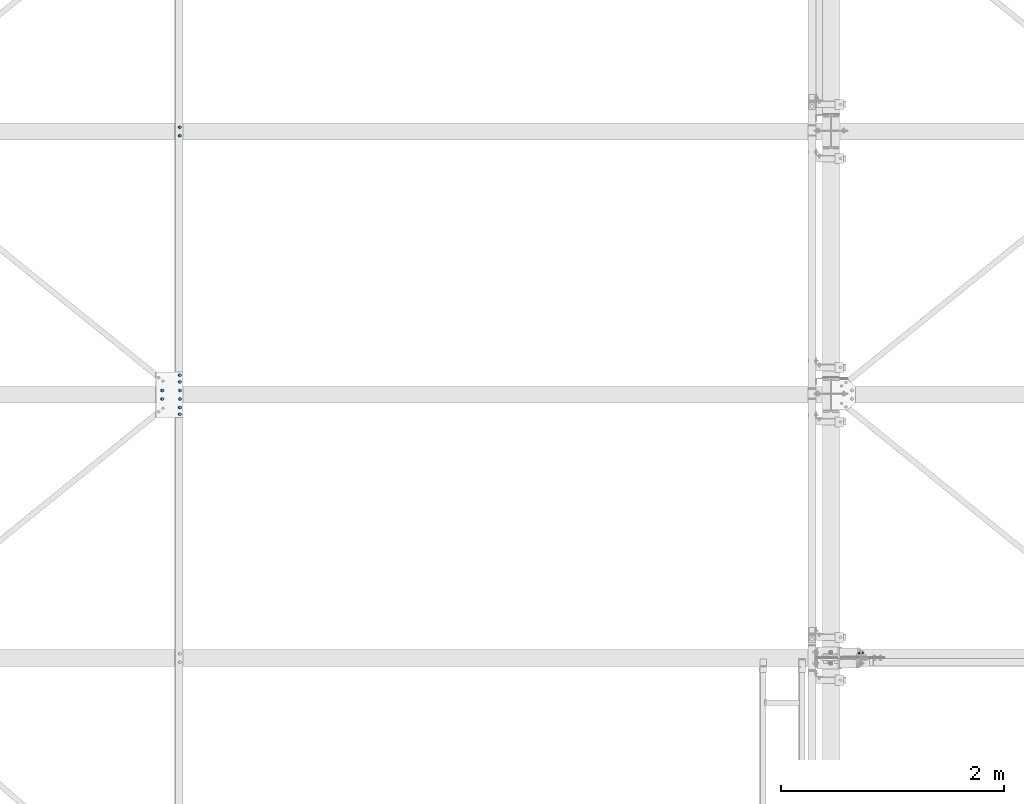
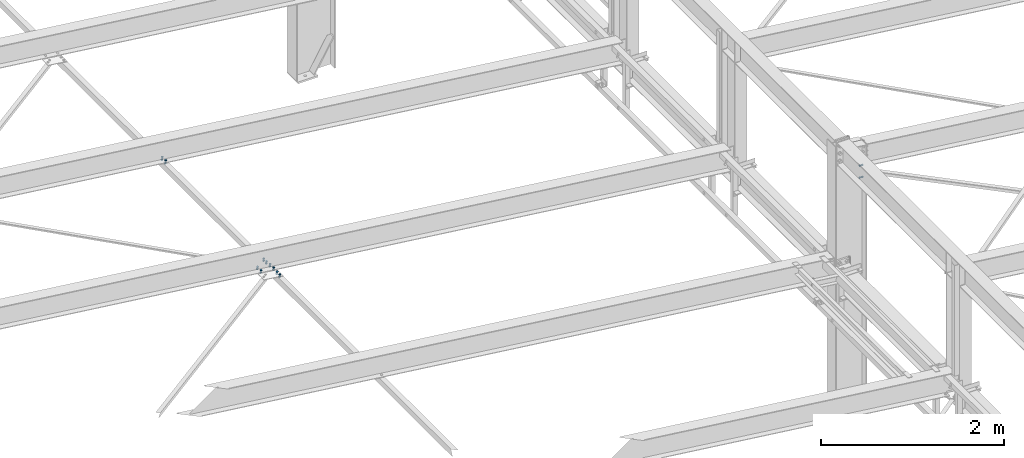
# One storey, part 118 of 3134: 5 mechanical fasteners, 4 elements without a shape of their own.
"""IFC2X3 building model written with IfcOpenShell, lengths in millimetres."""

from ifc_helpers import new_model, si_unit, frame, origin_with_axes, place, context, subcontext, project, spatial, faceted_brep, source, transform, mapped, material, type_object, element, aggregate, save


model = new_model("IFC2X3")

# Units and contexts
model_context = context("Model", 3, precision=1e-05, world=origin_with_axes())
body_context = subcontext(model_context, "Body", "Model", "MODEL_VIEW")
ifc_project = project(units=[si_unit("LENGTHUNIT", "METRE", prefix="MILLI"), si_unit("AREAUNIT", "SQUARE_METRE"), si_unit("VOLUMEUNIT", "CUBIC_METRE"), si_unit("MASSUNIT", "GRAM", prefix="KILO"), si_unit("TIMEUNIT", "SECOND"), si_unit("PLANEANGLEUNIT", "RADIAN"), si_unit("SOLIDANGLEUNIT", "STERADIAN"), si_unit("THERMODYNAMICTEMPERATUREUNIT", "DEGREE_CELSIUS"), si_unit("LUMINOUSINTENSITYUNIT", "LUMEN")], contexts=[model_context])

# Site, building, storey
site_placement = place(None, origin_with_axes())
site = spatial("IfcSite", under=ifc_project, at=site_placement, CompositionType="ELEMENT")
building_placement = place(site_placement, origin_with_axes())
building = spatial("IfcBuilding", under=site, at=building_placement, Name="Undefined", CompositionType="ELEMENT")
storey_placement = place(building_placement, origin_with_axes())
storey = spatial("IfcBuildingStorey", under=building, at=storey_placement, Name="Undefined", CompositionType="ELEMENT", Elevation=0.0)

# Assembly, mechanical fastener
assembly_1_placement = place(storey_placement, origin_with_axes())
assembly_1 = element("IfcElementAssembly", 1, at=assembly_1_placement, inside=storey, Name="300", AssemblyPlace="NOTDEFINED", PredefinedType="RIGID_FRAME")
ifc_material = material(Name="8.8")
mechanical_fastener_type = type_object("IfcMechanicalFastenerType", Name="Bolt assembly")
shared_shape_1 = source(origin_with_axes(), body_context, "Body", "Brep", [
    faceted_brep([(13.856406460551, -19.199990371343, 0.0), (6.92820323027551, -19.199990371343, 12.0), (-6.92820323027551, -19.199990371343, 12.0), (-13.856406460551, -19.199990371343, 1.69692038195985e-15), (-6.92820323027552, -19.199990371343, -12.0), (6.9282032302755, -19.199990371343, -12.0), (6.9282032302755, -9.19999037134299, -12.0), (-6.92820323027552, -9.19999037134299, -12.0), (-13.856406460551, -9.19999037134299, 1.69692038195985e-15), (-6.92820323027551, -9.19999037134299, 12.0), (6.92820323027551, -9.19999037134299, 12.0), (13.856406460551, -9.19999037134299, 0.0), (8.0, -9.19999037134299, 0.0), (6.92820323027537, -9.19999037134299, 4.00000000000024), (3.99999999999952, -9.19999037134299, 6.92820323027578), (-8.29068785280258e-13, -9.19999037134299, 8.0), (-4.00000000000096, -9.19999037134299, 6.92820323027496), (-6.9282032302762, -9.19999037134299, 3.99999999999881), (-8.0, -9.19999037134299, -1.65813757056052e-12), (-6.92820323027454, -9.19999037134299, -4.00000000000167), (-3.99999999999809, -9.19999037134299, -6.92820323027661), (2.47832457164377e-12, -9.19999037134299, -8.0), (4.00000000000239, -9.19999037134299, -6.92820323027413), (6.92820323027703, -9.19999037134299, -3.99999999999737), (6.92820323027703, 25.800009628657, -3.99999999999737), (4.00000000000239, 25.800009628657, -6.92820323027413), (2.47832457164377e-12, 25.800009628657, -8.0), (-3.99999999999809, 25.800009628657, -6.92820323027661), (-6.92820323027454, 25.800009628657, -4.00000000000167), (-8.0, 25.800009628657, -1.65813757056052e-12), (-6.9282032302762, 25.800009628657, 3.99999999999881), (-4.00000000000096, 25.800009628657, 6.92820323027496), (-8.29068785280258e-13, 25.800009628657, 8.0), (3.99999999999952, 25.800009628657, 6.92820323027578), (6.92820323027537, 25.800009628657, 4.00000000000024), (8.0, 25.800009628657, 0.0), (13.856406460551, 8.00000637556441, 0.0), (6.92820323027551, 8.00000637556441, 12.0), (-6.92820323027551, 8.00000637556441, 12.0), (-13.856406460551, 8.00000637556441, 1.69692038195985e-15), (-6.92820323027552, 8.00000637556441, -12.0), (6.9282032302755, 8.00000637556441, -12.0), (6.9282032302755, 21.0000063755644, -12.0), (-6.92820323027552, 21.0000063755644, -12.0), (-13.856406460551, 21.0000063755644, 1.69692038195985e-15), (-6.92820323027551, 21.0000063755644, 12.0), (6.92820323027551, 21.0000063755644, 12.0), (13.856406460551, 21.0000063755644, 0.0)], [[[0, 1, 2, 3, 4, 5]], [[6, 7, 8, 9, 10, 11]], [[0, 11, 10, 1]], [[1, 10, 9, 2]], [[2, 9, 8, 3]], [[3, 8, 7, 4]], [[4, 7, 6, 5]], [[5, 6, 11, 0]], [[12, 13, 14, 15, 16, 17, 18, 19, 20, 21, 22, 23]], [[24, 25, 26, 27, 28, 29, 30, 31, 32, 33, 34, 35]], [[12, 35, 34, 13]], [[13, 34, 33, 14]], [[14, 33, 32, 15]], [[15, 32, 31, 16]], [[16, 31, 30, 17]], [[17, 30, 29, 18]], [[18, 29, 28, 19]], [[19, 28, 27, 20]], [[20, 27, 26, 21]], [[21, 26, 25, 22]], [[22, 25, 24, 23]], [[23, 24, 35, 12]], [[36, 37, 38, 39, 40, 41]], [[42, 43, 44, 45, 46, 47]], [[36, 47, 46, 37]], [[37, 46, 45, 38]], [[38, 45, 44, 39]], [[39, 44, 43, 40]], [[40, 43, 42, 41]], [[41, 42, 47, 36]]]),
    faceted_brep([(9.0, -0.1, 0.0), (7.79422863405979, -0.1, 4.50000000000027), (4.49999999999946, -0.1, 7.79422863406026), (-9.3270238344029e-13, -0.1, 9.0), (-4.50000000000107, -0.1, 7.79422863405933), (-7.79422863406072, -0.1, 4.49999999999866), (-9.0, -0.1, -1.86540476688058e-12), (-7.79422863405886, -0.1, -4.50000000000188), (-4.49999999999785, -0.1, -7.79422863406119), (2.78811514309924e-12, -0.1, -9.0), (4.50000000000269, -0.1, -7.7942286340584), (7.79422863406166, -0.1, -4.49999999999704), (7.79422863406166, 8.00000000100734, -4.49999999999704), (4.50000000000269, 8.00000000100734, -7.7942286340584), (2.78811514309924e-12, 8.00000000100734, -9.0), (-4.49999999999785, 8.00000000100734, -7.79422863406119), (-7.79422863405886, 8.00000000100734, -4.50000000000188), (-9.0, 8.00000000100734, -1.86540476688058e-12), (-7.79422863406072, 8.00000000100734, 4.49999999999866), (-4.50000000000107, 8.00000000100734, 7.79422863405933), (-9.3270238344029e-13, 8.00000000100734, 9.0), (4.49999999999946, 8.00000000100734, 7.79422863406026), (7.79422863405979, 8.00000000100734, 4.50000000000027), (9.0, 8.00000000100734, 0.0), (9.0, -9.09999037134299, 0.0), (7.79422863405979, -9.09999037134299, 4.50000000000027), (4.49999999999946, -9.09999037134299, 7.79422863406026), (-9.3270238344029e-13, -9.09999037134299, 9.0), (-4.50000000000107, -9.09999037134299, 7.79422863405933), (-7.79422863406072, -9.09999037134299, 4.49999999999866), (-9.0, -9.09999037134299, -1.86540476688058e-12), (-7.79422863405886, -9.09999037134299, -4.50000000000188), (-4.49999999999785, -9.09999037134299, -7.79422863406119), (2.78811514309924e-12, -9.09999037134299, -9.0), (4.50000000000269, -9.09999037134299, -7.7942286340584), (7.79422863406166, -9.09999037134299, -4.49999999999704), (7.79422863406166, 0.100000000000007, -4.49999999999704), (4.50000000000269, 0.100000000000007, -7.7942286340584), (2.78811514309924e-12, 0.100000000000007, -9.0), (-4.49999999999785, 0.100000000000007, -7.79422863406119), (-7.79422863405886, 0.100000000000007, -4.50000000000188), (-9.0, 0.100000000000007, -1.86540476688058e-12), (-7.79422863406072, 0.100000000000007, 4.49999999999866), (-4.50000000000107, 0.100000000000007, 7.79422863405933), (-9.3270238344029e-13, 0.100000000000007, 9.0), (4.49999999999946, 0.100000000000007, 7.79422863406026), (7.79422863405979, 0.100000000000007, 4.50000000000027), (9.0, 0.100000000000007, 0.0)], [[[0, 1, 2, 3, 4, 5, 6, 7, 8, 9, 10, 11]], [[12, 13, 14, 15, 16, 17, 18, 19, 20, 21, 22, 23]], [[0, 23, 22, 1]], [[1, 22, 21, 2]], [[2, 21, 20, 3]], [[3, 20, 19, 4]], [[4, 19, 18, 5]], [[5, 18, 17, 6]], [[6, 17, 16, 7]], [[7, 16, 15, 8]], [[8, 15, 14, 9]], [[9, 14, 13, 10]], [[10, 13, 12, 11]], [[11, 12, 23, 0]], [[24, 25, 26, 27, 28, 29, 30, 31, 32, 33, 34, 35]], [[36, 37, 38, 39, 40, 41, 42, 43, 44, 45, 46, 47]], [[24, 47, 46, 25]], [[25, 46, 45, 26]], [[26, 45, 44, 27]], [[27, 44, 43, 28]], [[28, 43, 42, 29]], [[29, 42, 41, 30]], [[30, 41, 40, 31]], [[31, 40, 39, 32]], [[32, 39, 38, 33]], [[33, 38, 37, 34]], [[34, 37, 36, 35]], [[35, 36, 47, 24]]]),
])
mechanical_fastener_1_placement = place(assembly_1_placement, frame((38283.5751064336, 9972.0, 4816.43281405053), z_axis=(-0.992623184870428, 0.0, 0.121240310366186), x_axis=(0.0, 1.0, 0.0)))
mechanical_fastener_1 = element("IfcMechanicalFastener", 2, at=mechanical_fastener_1_placement, type_object=mechanical_fastener_type, material=ifc_material, Name="Bolt assembly", NominalDiameter=16.0, NominalLength=35.0, context=body_context, shape_type="MappedRepresentation", body=[
    mapped(shared_shape_1, transform((0.0, -5.32963895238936e-10, -79.9999999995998))),
    mapped(shared_shape_1, transform((76.0, -5.32963895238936e-10, -79.9999999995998))),
    mapped(shared_shape_1, transform((0.0, 5.3114490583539e-10, 79.9999999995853))),
    mapped(shared_shape_1, transform((76.0, 5.3114490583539e-10, 79.9999999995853))),
])
aggregate(assembly_1, [mechanical_fastener_1])

assembly_2_placement = place(storey_placement, origin_with_axes())
assembly_2 = element("IfcElementAssembly", 3, at=assembly_2_placement, inside=storey, AssemblyPlace="NOTDEFINED", PredefinedType="RIGID_FRAME")
shared_shape_2 = source(origin_with_axes(), body_context, "Body", "Brep", [
    faceted_brep([(13.856406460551, -19.199990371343, 0.0), (6.92820323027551, -19.199990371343, 12.0), (-6.92820323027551, -19.199990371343, 12.0), (-13.856406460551, -19.199990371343, 1.69692038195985e-15), (-6.92820323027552, -19.199990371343, -12.0), (6.9282032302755, -19.199990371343, -12.0), (6.9282032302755, -9.19999037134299, -12.0), (-6.92820323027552, -9.19999037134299, -12.0), (-13.856406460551, -9.19999037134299, 1.69692038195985e-15), (-6.92820323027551, -9.19999037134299, 12.0), (6.92820323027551, -9.19999037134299, 12.0), (13.856406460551, -9.19999037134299, 0.0), (8.0, -9.19999037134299, 0.0), (6.92820323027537, -9.19999037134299, 4.00000000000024), (3.99999999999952, -9.19999037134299, 6.92820323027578), (-8.29068785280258e-13, -9.19999037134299, 8.0), (-4.00000000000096, -9.19999037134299, 6.92820323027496), (-6.9282032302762, -9.19999037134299, 3.99999999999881), (-8.0, -9.19999037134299, -1.65813757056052e-12), (-6.92820323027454, -9.19999037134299, -4.00000000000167), (-3.99999999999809, -9.19999037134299, -6.92820323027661), (2.47832457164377e-12, -9.19999037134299, -8.0), (4.00000000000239, -9.19999037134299, -6.92820323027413), (6.92820323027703, -9.19999037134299, -3.99999999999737), (6.92820323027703, 35.8000002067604, -3.99999999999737), (4.00000000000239, 35.8000002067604, -6.92820323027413), (2.47832457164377e-12, 35.8000002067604, -8.0), (-3.99999999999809, 35.8000002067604, -6.92820323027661), (-6.92820323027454, 35.8000002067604, -4.00000000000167), (-8.0, 35.8000002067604, -1.65813757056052e-12), (-6.9282032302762, 35.8000002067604, 3.99999999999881), (-4.00000000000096, 35.8000002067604, 6.92820323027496), (-8.29068785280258e-13, 35.8000002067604, 8.0), (3.99999999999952, 35.8000002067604, 6.92820323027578), (6.92820323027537, 35.8000002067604, 4.00000000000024), (8.0, 35.8000002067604, 0.0), (13.856406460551, 14.9999995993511, 0.0), (6.92820323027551, 14.9999995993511, 12.0), (-6.92820323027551, 14.9999995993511, 12.0), (-13.856406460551, 14.9999995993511, 1.69692038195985e-15), (-6.92820323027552, 14.9999995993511, -12.0), (6.9282032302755, 14.9999995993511, -12.0), (6.9282032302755, 27.9999995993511, -12.0), (-6.92820323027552, 27.9999995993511, -12.0), (-13.856406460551, 27.9999995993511, 1.69692038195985e-15), (-6.92820323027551, 27.9999995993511, 12.0), (6.92820323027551, 27.9999995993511, 12.0), (13.856406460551, 27.9999995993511, 0.0)], [[[0, 1, 2, 3, 4, 5]], [[6, 7, 8, 9, 10, 11]], [[0, 11, 10, 1]], [[1, 10, 9, 2]], [[2, 9, 8, 3]], [[3, 8, 7, 4]], [[4, 7, 6, 5]], [[5, 6, 11, 0]], [[12, 13, 14, 15, 16, 17, 18, 19, 20, 21, 22, 23]], [[24, 25, 26, 27, 28, 29, 30, 31, 32, 33, 34, 35]], [[12, 35, 34, 13]], [[13, 34, 33, 14]], [[14, 33, 32, 15]], [[15, 32, 31, 16]], [[16, 31, 30, 17]], [[17, 30, 29, 18]], [[18, 29, 28, 19]], [[19, 28, 27, 20]], [[20, 27, 26, 21]], [[21, 26, 25, 22]], [[22, 25, 24, 23]], [[23, 24, 35, 12]], [[36, 37, 38, 39, 40, 41]], [[42, 43, 44, 45, 46, 47]], [[36, 47, 46, 37]], [[37, 46, 45, 38]], [[38, 45, 44, 39]], [[39, 44, 43, 40]], [[40, 43, 42, 41]], [[41, 42, 47, 36]]]),
    faceted_brep([(9.0, -9.09999037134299, 0.0), (7.79422863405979, -9.09999037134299, 4.50000000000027), (4.49999999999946, -9.09999037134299, 7.79422863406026), (-9.3270238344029e-13, -9.09999037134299, 9.0), (-4.50000000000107, -9.09999037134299, 7.79422863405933), (-7.79422863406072, -9.09999037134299, 4.49999999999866), (-9.0, -9.09999037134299, -1.86540476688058e-12), (-7.79422863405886, -9.09999037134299, -4.50000000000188), (-4.49999999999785, -9.09999037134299, -7.79422863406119), (2.78811514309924e-12, -9.09999037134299, -9.0), (4.50000000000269, -9.09999037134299, -7.7942286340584), (7.79422863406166, -9.09999037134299, -4.49999999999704), (7.79422863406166, 0.100000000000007, -4.49999999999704), (4.50000000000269, 0.100000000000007, -7.7942286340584), (2.78811514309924e-12, 0.100000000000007, -9.0), (-4.49999999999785, 0.100000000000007, -7.79422863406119), (-7.79422863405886, 0.100000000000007, -4.50000000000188), (-9.0, 0.100000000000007, -1.86540476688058e-12), (-7.79422863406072, 0.100000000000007, 4.49999999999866), (-4.50000000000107, 0.100000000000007, 7.79422863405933), (-9.3270238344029e-13, 0.100000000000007, 9.0), (4.49999999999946, 0.100000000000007, 7.79422863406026), (7.79422863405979, 0.100000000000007, 4.50000000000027), (9.0, 0.100000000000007, 0.0), (9.0, 7.9, 0.0), (7.79422863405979, 7.9, 4.50000000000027), (4.49999999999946, 7.9, 7.79422863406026), (-9.3270238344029e-13, 7.9, 9.0), (-4.50000000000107, 7.9, 7.79422863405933), (-7.79422863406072, 7.9, 4.49999999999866), (-9.0, 7.9, -1.86540476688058e-12), (-7.79422863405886, 7.9, -4.50000000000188), (-4.49999999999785, 7.9, -7.79422863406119), (2.78811514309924e-12, 7.9, -9.0), (4.50000000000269, 7.9, -7.7942286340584), (7.79422863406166, 7.9, -4.49999999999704), (7.79422863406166, 14.9999995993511, -4.49999999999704), (4.50000000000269, 14.9999995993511, -7.7942286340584), (2.78811514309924e-12, 14.9999995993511, -9.0), (-4.49999999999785, 14.9999995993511, -7.79422863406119), (-7.79422863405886, 14.9999995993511, -4.50000000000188), (-9.0, 14.9999995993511, -1.86540476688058e-12), (-7.79422863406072, 14.9999995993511, 4.49999999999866), (-4.50000000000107, 14.9999995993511, 7.79422863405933), (-9.3270238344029e-13, 14.9999995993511, 9.0), (4.49999999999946, 14.9999995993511, 7.79422863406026), (7.79422863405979, 14.9999995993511, 4.50000000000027), (9.0, 14.9999995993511, 0.0)], [[[0, 1, 2, 3, 4, 5, 6, 7, 8, 9, 10, 11]], [[12, 13, 14, 15, 16, 17, 18, 19, 20, 21, 22, 23]], [[0, 23, 22, 1]], [[1, 22, 21, 2]], [[2, 21, 20, 3]], [[3, 20, 19, 4]], [[4, 19, 18, 5]], [[5, 18, 17, 6]], [[6, 17, 16, 7]], [[7, 16, 15, 8]], [[8, 15, 14, 9]], [[9, 14, 13, 10]], [[10, 13, 12, 11]], [[11, 12, 23, 0]], [[24, 25, 26, 27, 28, 29, 30, 31, 32, 33, 34, 35]], [[36, 37, 38, 39, 40, 41, 42, 43, 44, 45, 46, 47]], [[24, 47, 46, 25]], [[25, 46, 45, 26]], [[26, 45, 44, 27]], [[27, 44, 43, 28]], [[28, 43, 42, 29]], [[29, 42, 41, 30]], [[30, 41, 40, 31]], [[31, 40, 39, 32]], [[32, 39, 38, 33]], [[33, 38, 37, 34]], [[34, 37, 36, 35]], [[35, 36, 47, 24]]]),
])
mechanical_fastener_2_placement = place(assembly_2_placement, frame((38362.984961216, 12332.0, 4806.73358921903), z_axis=(-0.992623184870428, 0.0, 0.121240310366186), x_axis=(0.0, 1.0, 0.0)))
mechanical_fastener_2 = element("IfcMechanicalFastener", 4, at=mechanical_fastener_2_placement, type_object=mechanical_fastener_type, material=ifc_material, Name="Bolt assembly", NominalDiameter=16.0, NominalLength=45.0, context=body_context, shape_type="MappedRepresentation", body=[
    mapped(shared_shape_2, transform((0.0, 0.0, 0.0))),
    mapped(shared_shape_2, transform((76.0, 0.0, 0.0))),
])
aggregate(assembly_2, [mechanical_fastener_2])

# Assembly, mechanical fasteners
assembly_3_placement = place(storey_placement, origin_with_axes())
assembly_3 = element("IfcElementAssembly", 5, at=assembly_3_placement, inside=storey, Name="PL8", AssemblyPlace="NOTDEFINED", PredefinedType="RIGID_FRAME")
shared_shape_3 = source(origin_with_axes(), body_context, "Body", "Brep", [
    faceted_brep([(13.856406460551, -10.0, 0.0), (6.92820323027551, -10.0, 12.0), (-6.92820323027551, -10.0, 12.0), (-13.856406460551, -10.0, 1.69692038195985e-15), (-6.92820323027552, -10.0, -12.0), (6.9282032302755, -10.0, -12.0), (6.9282032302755, 0.0, -12.0), (-6.92820323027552, 0.0, -12.0), (-13.856406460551, 0.0, 1.69692038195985e-15), (-6.92820323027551, 0.0, 12.0), (6.92820323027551, 0.0, 12.0), (13.856406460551, 0.0, 0.0), (8.0, 0.0, 0.0), (6.92820323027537, 0.0, 4.00000000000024), (3.99999999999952, 0.0, 6.92820323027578), (-8.29068785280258e-13, 0.0, 8.0), (-4.00000000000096, 0.0, 6.92820323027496), (-6.9282032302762, 0.0, 3.99999999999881), (-8.0, 0.0, -1.65813757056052e-12), (-6.92820323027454, 0.0, -4.00000000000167), (-3.99999999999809, 0.0, -6.92820323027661), (2.47832457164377e-12, 0.0, -8.0), (4.00000000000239, 0.0, -6.92820323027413), (6.92820323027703, 0.0, -3.99999999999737), (6.92820323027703, 35.0000000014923, -3.99999999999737), (4.00000000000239, 35.0000000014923, -6.92820323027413), (2.47832457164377e-12, 35.0000000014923, -8.0), (-3.99999999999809, 35.0000000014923, -6.92820323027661), (-6.92820323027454, 35.0000000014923, -4.00000000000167), (-8.0, 35.0000000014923, -1.65813757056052e-12), (-6.9282032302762, 35.0000000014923, 3.99999999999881), (-4.00000000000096, 35.0000000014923, 6.92820323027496), (-8.29068785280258e-13, 35.0000000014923, 8.0), (3.99999999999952, 35.0000000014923, 6.92820323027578), (6.92820323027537, 35.0000000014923, 4.00000000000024), (8.0, 35.0000000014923, 0.0), (13.856406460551, 14.9999995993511, 0.0), (6.92820323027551, 14.9999995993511, 12.0), (-6.92820323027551, 14.9999995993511, 12.0), (-13.856406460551, 14.9999995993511, 1.69692038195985e-15), (-6.92820323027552, 14.9999995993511, -12.0), (6.9282032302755, 14.9999995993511, -12.0), (6.9282032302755, 27.9999995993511, -12.0), (-6.92820323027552, 27.9999995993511, -12.0), (-13.856406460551, 27.9999995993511, 1.69692038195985e-15), (-6.92820323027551, 27.9999995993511, 12.0), (6.92820323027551, 27.9999995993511, 12.0), (13.856406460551, 27.9999995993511, 0.0)], [[[0, 1, 2, 3, 4, 5]], [[6, 7, 8, 9, 10, 11]], [[0, 11, 10, 1]], [[1, 10, 9, 2]], [[2, 9, 8, 3]], [[3, 8, 7, 4]], [[4, 7, 6, 5]], [[5, 6, 11, 0]], [[12, 13, 14, 15, 16, 17, 18, 19, 20, 21, 22, 23]], [[24, 25, 26, 27, 28, 29, 30, 31, 32, 33, 34, 35]], [[12, 35, 34, 13]], [[13, 34, 33, 14]], [[14, 33, 32, 15]], [[15, 32, 31, 16]], [[16, 31, 30, 17]], [[17, 30, 29, 18]], [[18, 29, 28, 19]], [[19, 28, 27, 20]], [[20, 27, 26, 21]], [[21, 26, 25, 22]], [[22, 25, 24, 23]], [[23, 24, 35, 12]], [[36, 37, 38, 39, 40, 41]], [[42, 43, 44, 45, 46, 47]], [[36, 47, 46, 37]], [[37, 46, 45, 38]], [[38, 45, 44, 39]], [[39, 44, 43, 40]], [[40, 43, 42, 41]], [[41, 42, 47, 36]]]),
    faceted_brep([(9.0, 7.9, 0.0), (7.79422863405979, 7.9, 4.50000000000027), (4.49999999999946, 7.9, 7.79422863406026), (-9.3270238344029e-13, 7.9, 9.0), (-4.50000000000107, 7.9, 7.79422863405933), (-7.79422863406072, 7.9, 4.49999999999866), (-9.0, 7.9, -1.86540476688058e-12), (-7.79422863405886, 7.9, -4.50000000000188), (-4.49999999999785, 7.9, -7.79422863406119), (2.78811514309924e-12, 7.9, -9.0), (4.50000000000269, 7.9, -7.7942286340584), (7.79422863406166, 7.9, -4.49999999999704), (7.79422863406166, 14.9999995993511, -4.49999999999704), (4.50000000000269, 14.9999995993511, -7.7942286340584), (2.78811514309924e-12, 14.9999995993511, -9.0), (-4.49999999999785, 14.9999995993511, -7.79422863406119), (-7.79422863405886, 14.9999995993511, -4.50000000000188), (-9.0, 14.9999995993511, -1.86540476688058e-12), (-7.79422863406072, 14.9999995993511, 4.49999999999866), (-4.50000000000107, 14.9999995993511, 7.79422863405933), (-9.3270238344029e-13, 14.9999995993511, 9.0), (4.49999999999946, 14.9999995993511, 7.79422863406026), (7.79422863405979, 14.9999995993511, 4.50000000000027), (9.0, 14.9999995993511, 0.0), (9.0, 0.100000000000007, 0.0), (7.79422863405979, 0.100000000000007, 4.50000000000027), (4.49999999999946, 0.100000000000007, 7.79422863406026), (-9.3270238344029e-13, 0.100000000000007, 9.0), (-4.50000000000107, 0.100000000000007, 7.79422863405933), (-7.79422863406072, 0.100000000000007, 4.49999999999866), (-9.0, 0.100000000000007, -1.86540476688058e-12), (-7.79422863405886, 0.100000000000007, -4.50000000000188), (-4.49999999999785, 0.100000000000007, -7.79422863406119), (2.78811514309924e-12, 0.100000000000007, -9.0), (4.50000000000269, 0.100000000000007, -7.7942286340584), (7.79422863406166, 0.100000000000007, -4.49999999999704), (7.79422863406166, 8.1, -4.49999999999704), (4.50000000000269, 8.1, -7.7942286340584), (2.78811514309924e-12, 8.1, -9.0), (-4.49999999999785, 8.1, -7.79422863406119), (-7.79422863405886, 8.1, -4.50000000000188), (-9.0, 8.1, -1.86540476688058e-12), (-7.79422863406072, 8.1, 4.49999999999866), (-4.50000000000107, 8.1, 7.79422863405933), (-9.3270238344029e-13, 8.1, 9.0), (4.49999999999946, 8.1, 7.79422863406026), (7.79422863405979, 8.1, 4.50000000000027), (9.0, 8.1, 0.0)], [[[0, 1, 2, 3, 4, 5, 6, 7, 8, 9, 10, 11]], [[12, 13, 14, 15, 16, 17, 18, 19, 20, 21, 22, 23]], [[0, 23, 22, 1]], [[1, 22, 21, 2]], [[2, 21, 20, 3]], [[3, 20, 19, 4]], [[4, 19, 18, 5]], [[5, 18, 17, 6]], [[6, 17, 16, 7]], [[7, 16, 15, 8]], [[8, 15, 14, 9]], [[9, 14, 13, 10]], [[10, 13, 12, 11]], [[11, 12, 23, 0]], [[24, 25, 26, 27, 28, 29, 30, 31, 32, 33, 34, 35]], [[36, 37, 38, 39, 40, 41, 42, 43, 44, 45, 46, 47]], [[24, 47, 46, 25]], [[25, 46, 45, 26]], [[26, 45, 44, 27]], [[27, 44, 43, 28]], [[28, 43, 42, 29]], [[29, 42, 41, 30]], [[30, 41, 40, 31]], [[31, 40, 39, 32]], [[32, 39, 38, 33]], [[33, 38, 37, 34]], [[34, 37, 36, 35]], [[35, 36, 47, 24]]]),
])
mechanical_fastener_3_placement = place(assembly_3_placement, frame((38362.9849612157, 10185.0, 4806.73358921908), z_axis=(0.992623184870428, 0.0, -0.121240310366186), x_axis=(0.0, -1.0, 0.0)))
mechanical_fastener_3 = element("IfcMechanicalFastener", 6, at=mechanical_fastener_3_placement, type_object=mechanical_fastener_type, material=ifc_material, Name="Bolt assembly", NominalDiameter=16.0, NominalLength=35.0, context=body_context, shape_type="MappedRepresentation", body=[
    mapped(shared_shape_3, transform((0.0, 0.0, 0.0))),
    mapped(shared_shape_3, transform((59.9999999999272, 0.0, 5.40239852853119e-10))),
])
mechanical_fastener_4_placement = place(assembly_3_placement, frame((38362.9849612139, 9894.99999999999, 4806.73358922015), z_axis=(0.992623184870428, 0.0, -0.121240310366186), x_axis=(0.0, -1.0, 0.0)))
mechanical_fastener_4 = element("IfcMechanicalFastener", 7, at=mechanical_fastener_4_placement, type_object=mechanical_fastener_type, material=ifc_material, Name="Bolt assembly", NominalDiameter=16.0, NominalLength=35.0, context=body_context, shape_type="MappedRepresentation", body=[
    mapped(shared_shape_3, transform((0.0, 0.0, 0.0))),
    mapped(shared_shape_3, transform((59.9999999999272, 0.0, 5.40239852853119e-10))),
])
aggregate(assembly_3, [mechanical_fastener_3, mechanical_fastener_4])

# Assembly, mechanical fastener
assembly_4_placement = place(storey_placement, origin_with_axes())
assembly_4 = element("IfcElementAssembly", 8, at=assembly_4_placement, inside=storey, AssemblyPlace="NOTDEFINED", PredefinedType="RIGID_FRAME")
shared_shape_4 = source(origin_with_axes(), body_context, "Body", "Brep", [
    faceted_brep([(13.856406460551, -23.499999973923, 0.0), (6.92820323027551, -23.499999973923, 12.0), (-6.92820323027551, -23.499999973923, 12.0), (-13.856406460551, -23.499999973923, 1.69692038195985e-15), (-6.92820323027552, -23.499999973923, -12.0), (6.9282032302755, -23.499999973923, -12.0), (6.9282032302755, -13.4999999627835, -12.0), (-6.92820323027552, -13.4999999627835, -12.0), (-13.856406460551, -13.4999999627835, 1.69692038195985e-15), (-6.92820323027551, -13.4999999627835, 12.0), (6.92820323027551, -13.4999999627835, 12.0), (13.856406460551, -13.4999999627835, 0.0), (8.0, -13.4999999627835, 0.0), (6.92820323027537, -13.4999999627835, 4.00000000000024), (3.99999999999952, -13.4999999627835, 6.92820323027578), (-8.29068785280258e-13, -13.4999999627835, 8.0), (-4.00000000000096, -13.4999999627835, 6.92820323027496), (-6.9282032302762, -13.4999999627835, 3.99999999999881), (-8.0, -13.4999999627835, -1.65813757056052e-12), (-6.92820323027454, -13.4999999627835, -4.00000000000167), (-3.99999999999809, -13.4999999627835, -6.92820323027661), (2.47832457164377e-12, -13.4999999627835, -8.0), (4.00000000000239, -13.4999999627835, -6.92820323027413), (6.92820323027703, -13.4999999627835, -3.99999999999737), (6.92820323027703, 26.5000000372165, -3.99999999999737), (4.00000000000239, 26.5000000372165, -6.92820323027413), (2.47832457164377e-12, 26.5000000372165, -8.0), (-3.99999999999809, 26.5000000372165, -6.92820323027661), (-6.92820323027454, 26.5000000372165, -4.00000000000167), (-8.0, 26.5000000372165, -1.65813757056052e-12), (-6.9282032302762, 26.5000000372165, 3.99999999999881), (-4.00000000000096, 26.5000000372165, 6.92820323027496), (-8.29068785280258e-13, 26.5000000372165, 8.0), (3.99999999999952, 26.5000000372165, 6.92820323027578), (6.92820323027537, 26.5000000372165, 4.00000000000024), (8.0, 26.5000000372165, 0.0), (13.856406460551, 7.0, 0.0), (6.92820323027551, 7.0, 12.0), (-6.92820323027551, 7.0, 12.0), (-13.856406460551, 7.0, 1.69692038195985e-15), (-6.92820323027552, 7.0, -12.0), (6.9282032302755, 7.0, -12.0), (6.9282032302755, 20.0, -12.0), (-6.92820323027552, 20.0, -12.0), (-13.856406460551, 20.0, 1.69692038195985e-15), (-6.92820323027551, 20.0, 12.0), (6.92820323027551, 20.0, 12.0), (13.856406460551, 20.0, 0.0)], [[[0, 1, 2, 3, 4, 5]], [[6, 7, 8, 9, 10, 11]], [[0, 11, 10, 1]], [[1, 10, 9, 2]], [[2, 9, 8, 3]], [[3, 8, 7, 4]], [[4, 7, 6, 5]], [[5, 6, 11, 0]], [[12, 13, 14, 15, 16, 17, 18, 19, 20, 21, 22, 23]], [[24, 25, 26, 27, 28, 29, 30, 31, 32, 33, 34, 35]], [[12, 35, 34, 13]], [[13, 34, 33, 14]], [[14, 33, 32, 15]], [[15, 32, 31, 16]], [[16, 31, 30, 17]], [[17, 30, 29, 18]], [[18, 29, 28, 19]], [[19, 28, 27, 20]], [[20, 27, 26, 21]], [[21, 26, 25, 22]], [[22, 25, 24, 23]], [[23, 24, 35, 12]], [[36, 37, 38, 39, 40, 41]], [[42, 43, 44, 45, 46, 47]], [[36, 47, 46, 37]], [[37, 46, 45, 38]], [[38, 45, 44, 39]], [[39, 44, 43, 40]], [[40, 43, 42, 41]], [[41, 42, 47, 36]]]),
    faceted_brep([(9.0, -13.3999999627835, 0.0), (7.79422863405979, -13.3999999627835, 4.50000000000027), (4.49999999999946, -13.3999999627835, 7.79422863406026), (-9.3270238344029e-13, -13.3999999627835, 9.0), (-4.50000000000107, -13.3999999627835, 7.79422863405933), (-7.79422863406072, -13.3999999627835, 4.49999999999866), (-9.0, -13.3999999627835, -1.86540476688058e-12), (-7.79422863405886, -13.3999999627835, -4.50000000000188), (-4.49999999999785, -13.3999999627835, -7.79422863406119), (2.78811514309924e-12, -13.3999999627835, -9.0), (4.50000000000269, -13.3999999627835, -7.7942286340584), (7.79422863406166, -13.3999999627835, -4.49999999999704), (7.79422863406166, 0.100000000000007, -4.49999999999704), (4.50000000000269, 0.100000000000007, -7.7942286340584), (2.78811514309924e-12, 0.100000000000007, -9.0), (-4.49999999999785, 0.100000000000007, -7.79422863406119), (-7.79422863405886, 0.100000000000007, -4.50000000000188), (-9.0, 0.100000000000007, -1.86540476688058e-12), (-7.79422863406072, 0.100000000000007, 4.49999999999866), (-4.50000000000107, 0.100000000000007, 7.79422863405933), (-9.3270238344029e-13, 0.100000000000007, 9.0), (4.49999999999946, 0.100000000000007, 7.79422863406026), (7.79422863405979, 0.100000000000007, 4.50000000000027), (9.0, 0.100000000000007, 0.0), (9.0, -0.1, 0.0), (7.79422863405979, -0.1, 4.50000000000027), (4.49999999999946, -0.1, 7.79422863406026), (-9.3270238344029e-13, -0.1, 9.0), (-4.50000000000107, -0.1, 7.79422863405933), (-7.79422863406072, -0.1, 4.49999999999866), (-9.0, -0.1, -1.86540476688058e-12), (-7.79422863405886, -0.1, -4.50000000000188), (-4.49999999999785, -0.1, -7.79422863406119), (2.78811514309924e-12, -0.1, -9.0), (4.50000000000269, -0.1, -7.7942286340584), (7.79422863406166, -0.1, -4.49999999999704), (7.79422863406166, 7.0, -4.49999999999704), (4.50000000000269, 7.0, -7.7942286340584), (2.78811514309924e-12, 7.0, -9.0), (-4.49999999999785, 7.0, -7.79422863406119), (-7.79422863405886, 7.0, -4.50000000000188), (-9.0, 7.0, -1.86540476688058e-12), (-7.79422863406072, 7.0, 4.49999999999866), (-4.50000000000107, 7.0, 7.79422863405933), (-9.3270238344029e-13, 7.0, 9.0), (4.49999999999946, 7.0, 7.79422863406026), (7.79422863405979, 7.0, 4.50000000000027), (9.0, 7.0, 0.0)], [[[0, 1, 2, 3, 4, 5, 6, 7, 8, 9, 10, 11]], [[12, 13, 14, 15, 16, 17, 18, 19, 20, 21, 22, 23]], [[0, 23, 22, 1]], [[1, 22, 21, 2]], [[2, 21, 20, 3]], [[3, 20, 19, 4]], [[4, 19, 18, 5]], [[5, 18, 17, 6]], [[6, 17, 16, 7]], [[7, 16, 15, 8]], [[8, 15, 14, 9]], [[9, 14, 13, 10]], [[10, 13, 12, 11]], [[11, 12, 23, 0]], [[24, 25, 26, 27, 28, 29, 30, 31, 32, 33, 34, 35]], [[36, 37, 38, 39, 40, 41, 42, 43, 44, 45, 46, 47]], [[24, 47, 46, 25]], [[25, 46, 45, 26]], [[26, 45, 44, 27]], [[27, 44, 43, 28]], [[28, 43, 42, 29]], [[29, 42, 41, 30]], [[30, 41, 40, 31]], [[31, 40, 39, 32]], [[32, 39, 38, 33]], [[33, 38, 37, 34]], [[34, 37, 36, 35]], [[35, 36, 47, 24]]]),
])
mechanical_fastener_5_placement = place(assembly_4_placement, frame((44464.9999999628, 7650.0, 5429.36590689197), z_axis=(0.0, -1.0, 0.0), x_axis=(0.0, 0.0, -1.0)))
mechanical_fastener_5 = element("IfcMechanicalFastener", 9, at=mechanical_fastener_5_placement, type_object=mechanical_fastener_type, material=ifc_material, Name="Bolt assembly", NominalDiameter=16.0, NominalLength=40.0, context=body_context, shape_type="MappedRepresentation", body=[
    mapped(shared_shape_4, transform((0.0, 0.0, -45.0))),
    mapped(shared_shape_4, transform((160.0, 0.0, -45.0))),
])
aggregate(assembly_4, [mechanical_fastener_5])

save(model, "model.ifc")
